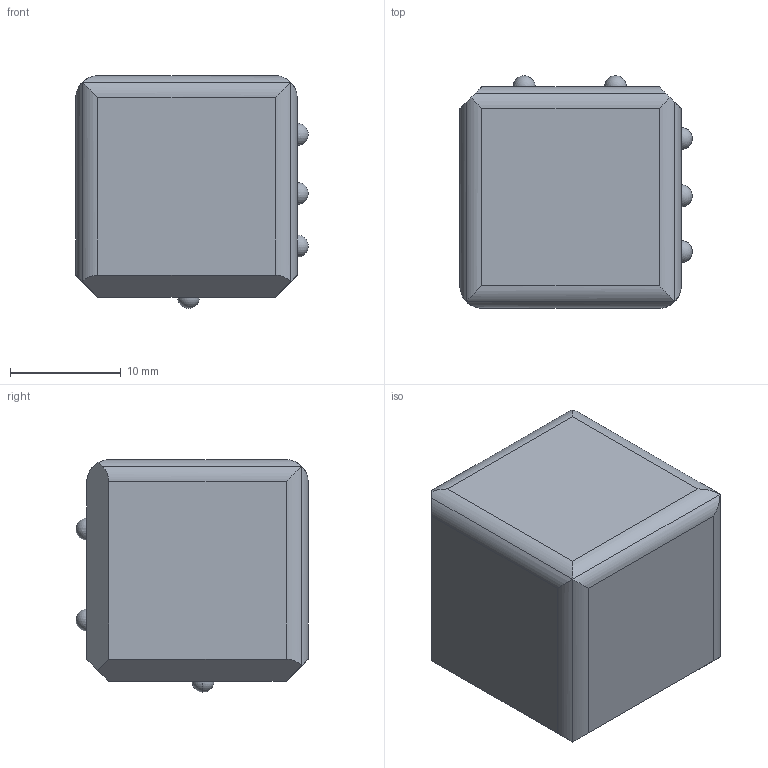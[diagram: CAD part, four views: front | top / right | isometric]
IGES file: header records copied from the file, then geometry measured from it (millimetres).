
Start section: 3D InterOp IGES (Version 22 0 0), Spatial Corp. Copyright (c) 1999-2007.
Global section: file name: cube4.igs; native system: Spatial Corp.; preprocessor: 3D InterOp ACIS/IGES; author: Noname; organization: Noname; date: 20120203.165332; units: millimetre
Bounding box: 20.99 x 20.99 x 21 mm (x, y, z)
Volume: 7713.4 mm3; surface area: 2211 mm2
Topology: 1 solids, 1 shells, 34 faces, 94 edges, 50 vertices
Faces by surface type: cylinder 12, plane 12, sphere 10
